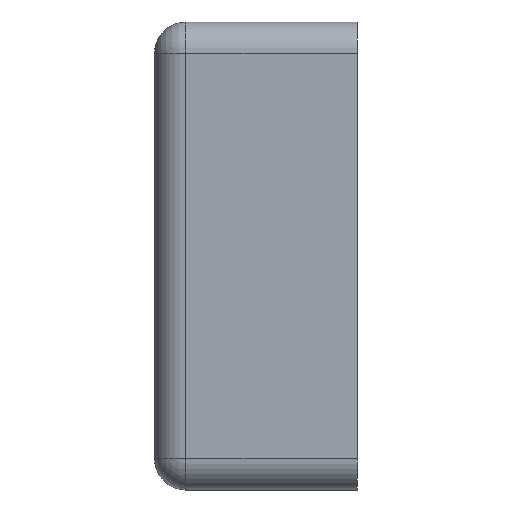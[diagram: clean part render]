
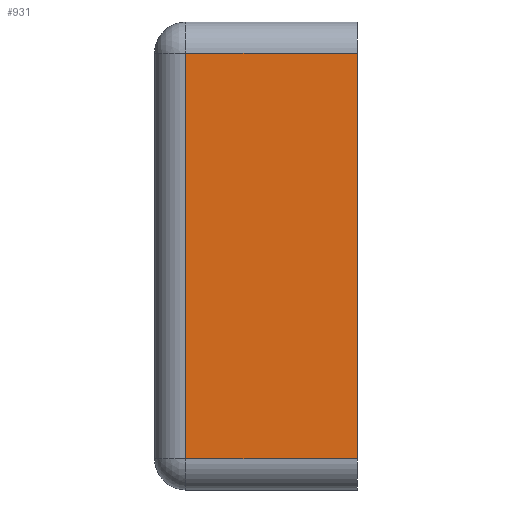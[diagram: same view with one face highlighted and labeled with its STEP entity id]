
A CAD part, left-side view. The second image highlights one B-rep face of the part: STEP entity #931.
In plain terms, the highlighted planar face has unit normal (-1, 0, 0).
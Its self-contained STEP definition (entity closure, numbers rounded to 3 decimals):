
#6 = LINE ( 'NONE', #276, #189 ) ;
#11 = ORIENTED_EDGE ( 'NONE', *, *, #534, .T. ) ;
#36 = LINE ( 'NONE', #130, #330 ) ;
#66 = EDGE_CURVE ( 'NONE', #538, #347, #36, .T. ) ;
#87 = EDGE_CURVE ( 'NONE', #347, #855, #222, .T. ) ;
#92 = CARTESIAN_POINT ( 'NONE',  ( -19.5, 13., 15. ) ) ;
#96 = VECTOR ( 'NONE', #633, 1000. ) ;
#124 = EDGE_LOOP ( 'NONE', ( #313, #11, #1020, #172 ) ) ;
#128 = DIRECTION ( 'NONE',  ( 0., -1., 0. ) ) ;
#130 = CARTESIAN_POINT ( 'NONE',  ( -19.5, 0., 15. ) ) ;
#139 = CARTESIAN_POINT ( 'NONE',  ( -19.5, 13., 13. ) ) ;
#157 = VERTEX_POINT ( 'NONE', #385 ) ;
#172 = ORIENTED_EDGE ( 'NONE', *, *, #87, .T. ) ;
#175 = CARTESIAN_POINT ( 'NONE',  ( -19.5, 0., 13. ) ) ;
#184 = PLANE ( 'NONE',  #447 ) ;
#189 = VECTOR ( 'NONE', #128, 1000. ) ;
#216 = DIRECTION ( 'NONE',  ( 0., 0., 1. ) ) ;
#222 = LINE ( 'NONE', #139, #96 ) ;
#276 = CARTESIAN_POINT ( 'NONE',  ( -19.5, 13., -13. ) ) ;
#313 = ORIENTED_EDGE ( 'NONE', *, *, #914, .T. ) ;
#330 = VECTOR ( 'NONE', #216, 1000. ) ;
#332 = DIRECTION ( 'NONE',  ( 1., 0., 0. ) ) ;
#338 = DIRECTION ( 'NONE',  ( 0., 0., -1. ) ) ;
#347 = VERTEX_POINT ( 'NONE', #175 ) ;
#365 = LINE ( 'NONE', #735, #921 ) ;
#385 = CARTESIAN_POINT ( 'NONE',  ( -19.5, 11., -13. ) ) ;
#420 = DIRECTION ( 'NONE',  ( 0., 0., -1. ) ) ;
#447 = AXIS2_PLACEMENT_3D ( 'NONE', #92, #332, #420 ) ;
#534 = EDGE_CURVE ( 'NONE', #157, #538, #6, .T. ) ;
#536 = CARTESIAN_POINT ( 'NONE',  ( -19.5, 0., -13. ) ) ;
#538 = VERTEX_POINT ( 'NONE', #536 ) ;
#572 = CARTESIAN_POINT ( 'NONE',  ( -19.5, 11., 13. ) ) ;
#633 = DIRECTION ( 'NONE',  ( 0., 1., 0. ) ) ;
#735 = CARTESIAN_POINT ( 'NONE',  ( -19.5, 11., 15. ) ) ;
#855 = VERTEX_POINT ( 'NONE', #572 ) ;
#873 = FACE_OUTER_BOUND ( 'NONE', #124, .T. ) ;
#914 = EDGE_CURVE ( 'NONE', #855, #157, #365, .T. ) ;
#921 = VECTOR ( 'NONE', #338, 1000. ) ;
#931 = ADVANCED_FACE ( 'NONE', ( #873 ), #184, .F. ) ;
#1020 = ORIENTED_EDGE ( 'NONE', *, *, #66, .T. ) ;
